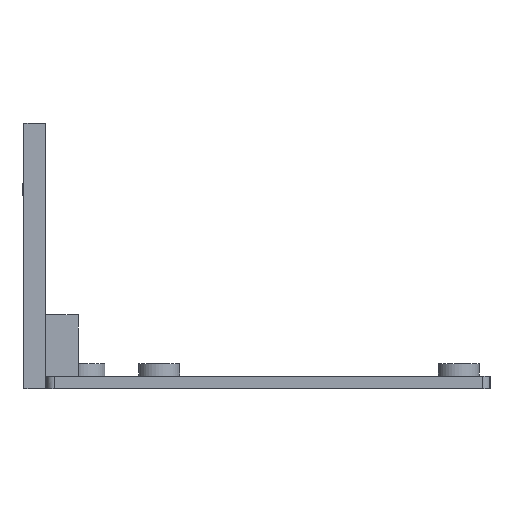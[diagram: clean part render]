
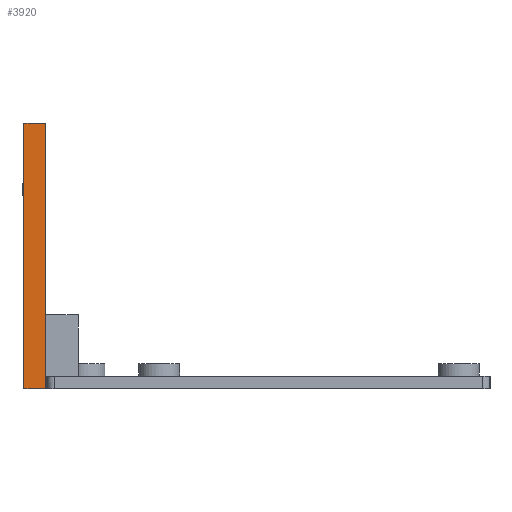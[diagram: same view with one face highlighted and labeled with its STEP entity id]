
A CAD part, left-side view. The second image highlights one B-rep face of the part: STEP entity #3920.
In plain terms, the highlighted planar face has unit normal (-1, 0, 0).
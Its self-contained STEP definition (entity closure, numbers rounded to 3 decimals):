
#1261 = PLANE('',#1262);
#1262 = AXIS2_PLACEMENT_3D('',#1263,#1264,#1265);
#1263 = CARTESIAN_POINT('',(3.8,276.2,3.2));
#1264 = DIRECTION('',(0.,1.,0.));
#1265 = DIRECTION('',(0.,0.,1.));
#2278 = VERTEX_POINT('',#2279);
#2279 = CARTESIAN_POINT('',(3.8,276.2,3.2));
#2295 = PLANE('',#2296);
#2296 = AXIS2_PLACEMENT_3D('',#2297,#2298,#2299);
#2297 = CARTESIAN_POINT('',(3.8,276.2,3.2));
#2298 = DIRECTION('',(0.,0.,1.));
#2299 = DIRECTION('',(1.,0.,0.));
#2307 = EDGE_CURVE('',#2278,#2308,#2310,.T.);
#2308 = VERTEX_POINT('',#2309);
#2309 = CARTESIAN_POINT('',(3.8,276.2,45.7));
#2310 = SURFACE_CURVE('',#2311,(#2315,#2322),.PCURVE_S1.);
#2311 = LINE('',#2312,#2313);
#2312 = CARTESIAN_POINT('',(3.8,276.2,3.2));
#2313 = VECTOR('',#2314,1.);
#2314 = DIRECTION('',(0.,0.,1.));
#2315 = PCURVE('',#1261,#2316);
#2316 = DEFINITIONAL_REPRESENTATION('',(#2317),#2321);
#2317 = LINE('',#2318,#2319);
#2318 = CARTESIAN_POINT('',(0.,0.));
#2319 = VECTOR('',#2320,1.);
#2320 = DIRECTION('',(1.,0.));
#2321 = ( GEOMETRIC_REPRESENTATION_CONTEXT(2) 
PARAMETRIC_REPRESENTATION_CONTEXT() REPRESENTATION_CONTEXT('2D SPACE',''
  ) );
#2322 = PCURVE('',#2323,#2328);
#2323 = PLANE('',#2324);
#2324 = AXIS2_PLACEMENT_3D('',#2325,#2326,#2327);
#2325 = CARTESIAN_POINT('',(3.8,276.2,3.2));
#2326 = DIRECTION('',(1.,0.,0.));
#2327 = DIRECTION('',(0.,0.,1.));
#2328 = DEFINITIONAL_REPRESENTATION('',(#2329),#2333);
#2329 = LINE('',#2330,#2331);
#2330 = CARTESIAN_POINT('',(0.,0.));
#2331 = VECTOR('',#2332,1.);
#2332 = DIRECTION('',(1.,0.));
#2333 = ( GEOMETRIC_REPRESENTATION_CONTEXT(2) 
PARAMETRIC_REPRESENTATION_CONTEXT() REPRESENTATION_CONTEXT('2D SPACE',''
  ) );
#2351 = PLANE('',#2352);
#2352 = AXIS2_PLACEMENT_3D('',#2353,#2354,#2355);
#2353 = CARTESIAN_POINT('',(3.8,276.2,45.7));
#2354 = DIRECTION('',(0.,0.,1.));
#2355 = DIRECTION('',(1.,0.,0.));
#3799 = EDGE_CURVE('',#2278,#3800,#3802,.T.);
#3800 = VERTEX_POINT('',#3801);
#3801 = CARTESIAN_POINT('',(3.8,279.7,3.2));
#3802 = SURFACE_CURVE('',#3803,(#3807,#3814),.PCURVE_S1.);
#3803 = LINE('',#3804,#3805);
#3804 = CARTESIAN_POINT('',(3.8,276.2,3.2));
#3805 = VECTOR('',#3806,1.);
#3806 = DIRECTION('',(0.,1.,0.));
#3807 = PCURVE('',#2295,#3808);
#3808 = DEFINITIONAL_REPRESENTATION('',(#3809),#3813);
#3809 = LINE('',#3810,#3811);
#3810 = CARTESIAN_POINT('',(0.,0.));
#3811 = VECTOR('',#3812,1.);
#3812 = DIRECTION('',(0.,1.));
#3813 = ( GEOMETRIC_REPRESENTATION_CONTEXT(2) 
PARAMETRIC_REPRESENTATION_CONTEXT() REPRESENTATION_CONTEXT('2D SPACE',''
  ) );
#3814 = PCURVE('',#2323,#3815);
#3815 = DEFINITIONAL_REPRESENTATION('',(#3816),#3820);
#3816 = LINE('',#3817,#3818);
#3817 = CARTESIAN_POINT('',(0.,0.));
#3818 = VECTOR('',#3819,1.);
#3819 = DIRECTION('',(0.,-1.));
#3820 = ( GEOMETRIC_REPRESENTATION_CONTEXT(2) 
PARAMETRIC_REPRESENTATION_CONTEXT() REPRESENTATION_CONTEXT('2D SPACE',''
  ) );
#3860 = PLANE('',#3861);
#3861 = AXIS2_PLACEMENT_3D('',#3862,#3863,#3864);
#3862 = CARTESIAN_POINT('',(3.8,279.7,3.2));
#3863 = DIRECTION('',(0.,1.,0.));
#3864 = DIRECTION('',(0.,0.,1.));
#3920 = ADVANCED_FACE('',(#3921),#2323,.F.);
#3921 = FACE_BOUND('',#3922,.F.);
#3922 = EDGE_LOOP('',(#3923,#3924,#3925,#3948));
#3923 = ORIENTED_EDGE('',*,*,#2307,.F.);
#3924 = ORIENTED_EDGE('',*,*,#3799,.T.);
#3925 = ORIENTED_EDGE('',*,*,#3926,.T.);
#3926 = EDGE_CURVE('',#3800,#3927,#3929,.T.);
#3927 = VERTEX_POINT('',#3928);
#3928 = CARTESIAN_POINT('',(3.8,279.7,45.7));
#3929 = SURFACE_CURVE('',#3930,(#3934,#3941),.PCURVE_S1.);
#3930 = LINE('',#3931,#3932);
#3931 = CARTESIAN_POINT('',(3.8,279.7,3.2));
#3932 = VECTOR('',#3933,1.);
#3933 = DIRECTION('',(0.,0.,1.));
#3934 = PCURVE('',#2323,#3935);
#3935 = DEFINITIONAL_REPRESENTATION('',(#3936),#3940);
#3936 = LINE('',#3937,#3938);
#3937 = CARTESIAN_POINT('',(0.,-3.5));
#3938 = VECTOR('',#3939,1.);
#3939 = DIRECTION('',(1.,0.));
#3940 = ( GEOMETRIC_REPRESENTATION_CONTEXT(2) 
PARAMETRIC_REPRESENTATION_CONTEXT() REPRESENTATION_CONTEXT('2D SPACE',''
  ) );
#3941 = PCURVE('',#3860,#3942);
#3942 = DEFINITIONAL_REPRESENTATION('',(#3943),#3947);
#3943 = LINE('',#3944,#3945);
#3944 = CARTESIAN_POINT('',(0.,0.));
#3945 = VECTOR('',#3946,1.);
#3946 = DIRECTION('',(1.,0.));
#3947 = ( GEOMETRIC_REPRESENTATION_CONTEXT(2) 
PARAMETRIC_REPRESENTATION_CONTEXT() REPRESENTATION_CONTEXT('2D SPACE',''
  ) );
#3948 = ORIENTED_EDGE('',*,*,#3949,.F.);
#3949 = EDGE_CURVE('',#2308,#3927,#3950,.T.);
#3950 = SURFACE_CURVE('',#3951,(#3955,#3962),.PCURVE_S1.);
#3951 = LINE('',#3952,#3953);
#3952 = CARTESIAN_POINT('',(3.8,276.2,45.7));
#3953 = VECTOR('',#3954,1.);
#3954 = DIRECTION('',(0.,1.,0.));
#3955 = PCURVE('',#2323,#3956);
#3956 = DEFINITIONAL_REPRESENTATION('',(#3957),#3961);
#3957 = LINE('',#3958,#3959);
#3958 = CARTESIAN_POINT('',(42.5,0.));
#3959 = VECTOR('',#3960,1.);
#3960 = DIRECTION('',(0.,-1.));
#3961 = ( GEOMETRIC_REPRESENTATION_CONTEXT(2) 
PARAMETRIC_REPRESENTATION_CONTEXT() REPRESENTATION_CONTEXT('2D SPACE',''
  ) );
#3962 = PCURVE('',#2351,#3963);
#3963 = DEFINITIONAL_REPRESENTATION('',(#3964),#3968);
#3964 = LINE('',#3965,#3966);
#3965 = CARTESIAN_POINT('',(0.,0.));
#3966 = VECTOR('',#3967,1.);
#3967 = DIRECTION('',(0.,1.));
#3968 = ( GEOMETRIC_REPRESENTATION_CONTEXT(2) 
PARAMETRIC_REPRESENTATION_CONTEXT() REPRESENTATION_CONTEXT('2D SPACE',''
  ) );
